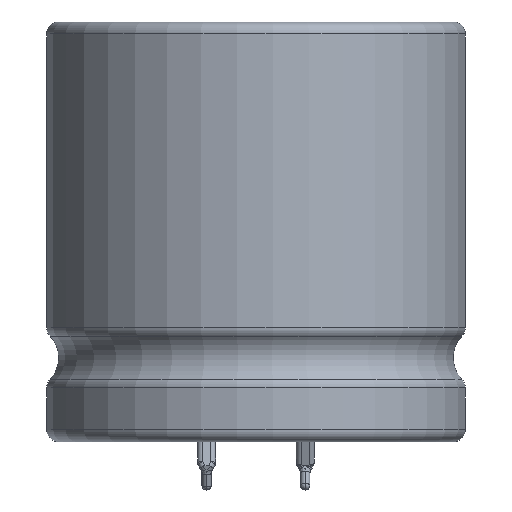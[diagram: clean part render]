
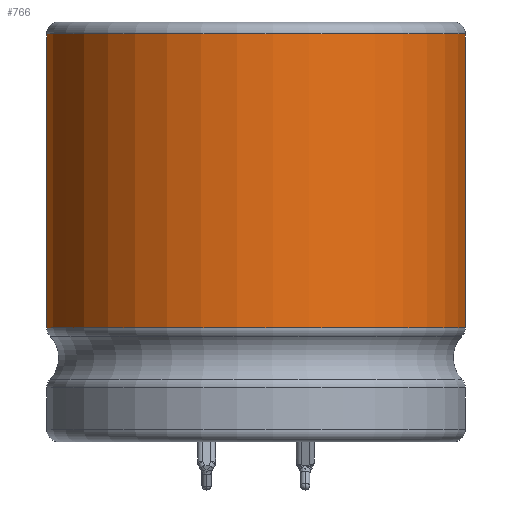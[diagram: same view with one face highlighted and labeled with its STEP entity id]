
A CAD part, left-side view. The second image highlights one B-rep face of the part: STEP entity #766.
In plain terms, the highlighted cylindrical face has radius 17.5 mm (diameter 35 mm), a partial arc.
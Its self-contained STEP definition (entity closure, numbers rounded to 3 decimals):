
#766=ADVANCED_FACE('',(#1050),#974,.T.);
#974=CYLINDRICAL_SURFACE('',#3966,17.5);
#1050=FACE_OUTER_BOUND('',#1245,.T.);
#1245=EDGE_LOOP('',(#1975,#1976,#1977,#1978));
#1467=LINE('',#5532,#1721);
#1468=LINE('',#5536,#1722);
#1721=VECTOR('',#4404,1.);
#1722=VECTOR('',#4407,1.);
#1975=ORIENTED_EDGE('',*,*,#3273,.F.);
#1976=ORIENTED_EDGE('',*,*,#3274,.F.);
#1977=ORIENTED_EDGE('',*,*,#3275,.T.);
#1978=ORIENTED_EDGE('',*,*,#3276,.T.);
#2963=VERTEX_POINT('',#5530);
#2964=VERTEX_POINT('',#5531);
#2965=VERTEX_POINT('',#5533);
#2966=VERTEX_POINT('',#5535);
#3273=EDGE_CURVE('',#2963,#2964,#3767,.T.);
#3274=EDGE_CURVE('',#2965,#2963,#1467,.T.);
#3275=EDGE_CURVE('',#2965,#2966,#3768,.T.);
#3276=EDGE_CURVE('',#2966,#2964,#1468,.T.);
#3767=CIRCLE('',#3964,17.5);
#3768=CIRCLE('',#3965,17.5);
#3964=AXIS2_PLACEMENT_3D('',#5529,#4402,#4403);
#3965=AXIS2_PLACEMENT_3D('',#5534,#4405,#4406);
#3966=AXIS2_PLACEMENT_3D('',#5537,#4408,#4409);
#4402=DIRECTION('',(0.,0.,-1.));
#4403=DIRECTION('',(-1.,0.,0.));
#4404=DIRECTION('',(0.,0.,-1.));
#4405=DIRECTION('',(0.,0.,-1.));
#4406=DIRECTION('',(-1.,0.,0.));
#4407=DIRECTION('',(0.,0.,-1.));
#4408=DIRECTION('',(0.,0.,-1.));
#4409=DIRECTION('',(-1.,0.,0.));
#5529=CARTESIAN_POINT('',(0.,0.,9.5));
#5530=CARTESIAN_POINT('',(7.118,-15.987,9.5));
#5531=CARTESIAN_POINT('',(15.987,-7.118,9.5));
#5532=CARTESIAN_POINT('',(7.118,-15.987,34.));
#5533=CARTESIAN_POINT('',(7.118,-15.987,34.));
#5534=CARTESIAN_POINT('',(0.,0.,34.));
#5535=CARTESIAN_POINT('',(15.987,-7.118,34.));
#5536=CARTESIAN_POINT('',(15.987,-7.118,34.));
#5537=CARTESIAN_POINT('',(0.,0.,0.));
